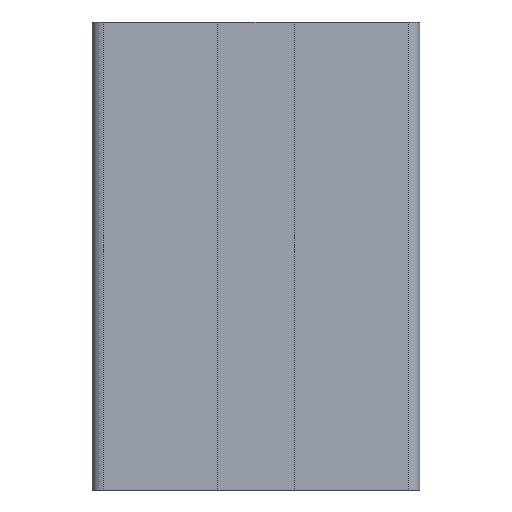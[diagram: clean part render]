
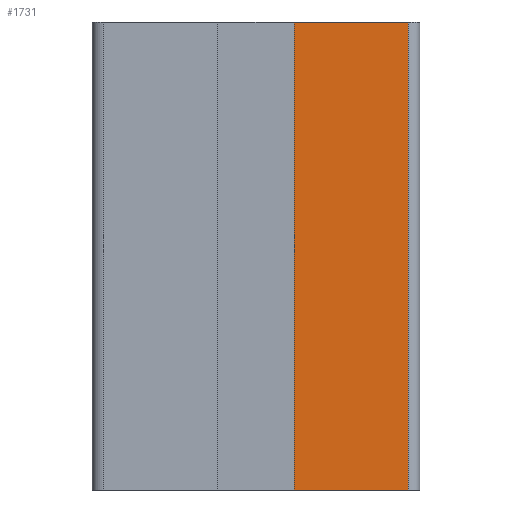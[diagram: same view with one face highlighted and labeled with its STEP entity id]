
A CAD part, front view. The second image highlights one B-rep face of the part: STEP entity #1731.
In plain terms, the highlighted planar face has unit normal (0, -1, 0).
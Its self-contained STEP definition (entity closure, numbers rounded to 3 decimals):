
#221=ORIENTED_EDGE('',*,*,#729,.F.);
#222=ORIENTED_EDGE('',*,*,#728,.T.);
#223=ORIENTED_EDGE('',*,*,#730,.F.);
#224=ORIENTED_EDGE('',*,*,#598,.F.);
#598=EDGE_CURVE('',#852,#853,#1017,.T.);
#728=EDGE_CURVE('',#936,#982,#1134,.T.);
#729=EDGE_CURVE('',#936,#852,#1135,.T.);
#730=EDGE_CURVE('',#853,#982,#1136,.T.);
#852=VERTEX_POINT('',#2467);
#853=VERTEX_POINT('',#2469);
#936=VERTEX_POINT('',#2636);
#982=VERTEX_POINT('',#2728);
#1017=LINE('',#2468,#1253);
#1134=LINE('',#2729,#1370);
#1135=LINE('',#2731,#1371);
#1136=LINE('',#2732,#1372);
#1253=VECTOR('',#1985,1000.);
#1370=VECTOR('',#2130,1000.);
#1371=VECTOR('',#2133,1000.);
#1372=VECTOR('',#2134,1000.);
#1467=EDGE_LOOP('',(#221,#222,#223,#224));
#1565=FACE_BOUND('',#1467,.T.);
#1653=PLANE('',#1851);
#1731=ADVANCED_FACE('',(#1565),#1653,.F.);
#1851=AXIS2_PLACEMENT_3D('',#2730,#2131,#2132);
#1985=DIRECTION('',(1.,0.,0.));
#2130=DIRECTION('',(1.,0.,0.));
#2131=DIRECTION('',(0.,1.,0.));
#2132=DIRECTION('',(-1.,0.,0.));
#2133=DIRECTION('',(0.,0.,1.));
#2134=DIRECTION('',(0.,0.,-1.));
#2467=CARTESIAN_POINT('',(5.156,-22.225,31.75));
#2468=CARTESIAN_POINT('',(-20.625,-22.225,31.75));
#2469=CARTESIAN_POINT('',(20.625,-22.225,31.75));
#2636=CARTESIAN_POINT('',(5.156,-22.225,-31.75));
#2728=CARTESIAN_POINT('',(20.625,-22.225,-31.75));
#2729=CARTESIAN_POINT('',(-20.625,-22.225,-31.75));
#2730=CARTESIAN_POINT('',(-20.625,-22.225,31.75));
#2731=CARTESIAN_POINT('',(5.156,-22.225,-31.75));
#2732=CARTESIAN_POINT('',(20.625,-22.225,31.75));
